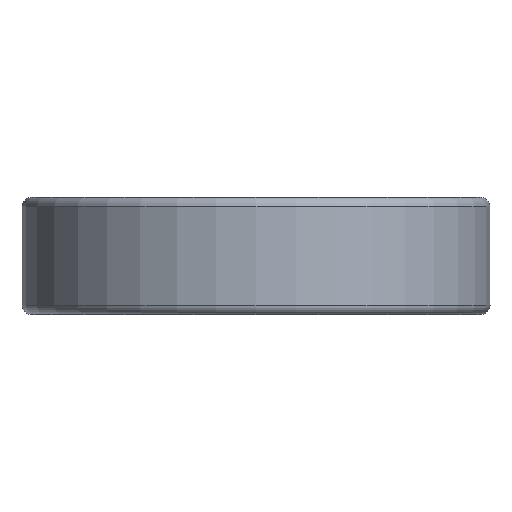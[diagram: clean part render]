
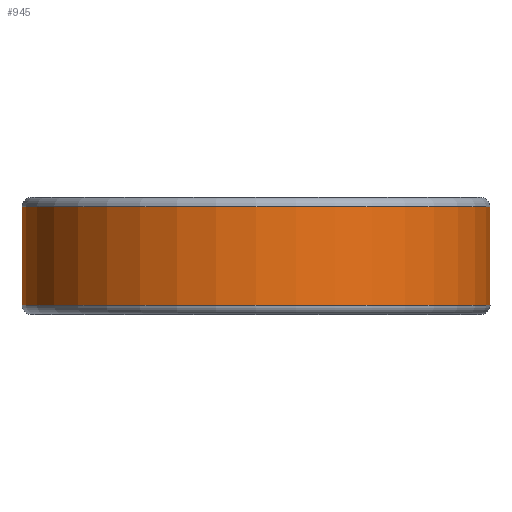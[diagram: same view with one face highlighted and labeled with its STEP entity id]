
A CAD part, left-side view. The second image highlights one B-rep face of the part: STEP entity #945.
In plain terms, the highlighted cylindrical face has radius 30 mm (diameter 60 mm), a partial arc.
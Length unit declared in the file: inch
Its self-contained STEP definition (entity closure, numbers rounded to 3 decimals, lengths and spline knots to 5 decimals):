
#62=DIRECTION('',(0.,0.,-1.));
#63=VECTOR('',#62,0.20273);
#64=CARTESIAN_POINT('',(1.15275,0.25725,0.39664));
#65=LINE('',#64,#63);
#81=DIRECTION('',(0.,0.,1.));
#82=VECTOR('',#81,0.0252);
#83=CARTESIAN_POINT('',(1.15275,0.25725,0.16871));
#84=LINE('',#83,#82);
#85=CARTESIAN_POINT('',(1.15275,0.25725,0.42184));
#86=CARTESIAN_POINT('',(1.14333,0.29944,0.43439));
#87=CARTESIAN_POINT('',(1.12092,0.37816,0.45819));
#88=CARTESIAN_POINT('',(1.08081,0.48003,0.48467));
#89=CARTESIAN_POINT('',(1.03683,0.56823,0.50124));
#90=CARTESIAN_POINT('',(0.9914,0.64376,0.5077));
#91=CARTESIAN_POINT('',(0.9466,0.70762,0.50444));
#92=CARTESIAN_POINT('',(0.9044,0.7605,0.49221));
#93=CARTESIAN_POINT('',(0.86656,0.80309,0.47218));
#94=CARTESIAN_POINT('',(0.83457,0.83608,0.44597));
#95=CARTESIAN_POINT('',(0.80938,0.86035,0.41566));
#96=CARTESIAN_POINT('',(0.79092,0.87725,0.38286));
#97=CARTESIAN_POINT('',(0.77883,0.88796,0.34847));
#98=CARTESIAN_POINT('',(0.77283,0.89316,0.31324));
#99=CARTESIAN_POINT('',(0.7728,0.89319,0.27773));
#100=CARTESIAN_POINT('',(0.77872,0.88805,
0.24249));
#101=CARTESIAN_POINT('',(0.79075,0.87741,
0.20809));
#102=CARTESIAN_POINT('',(0.80912,0.86059,
0.17527));
#103=CARTESIAN_POINT('',(0.83423,0.83642,
0.14492));
#104=CARTESIAN_POINT('',(0.86621,0.80347,
0.11861));
#105=CARTESIAN_POINT('',(0.90404,0.76093,
0.09848));
#106=CARTESIAN_POINT('',(0.94625,0.70809,
0.08617));
#107=CARTESIAN_POINT('',(0.99107,0.64426,
0.08284));
#108=CARTESIAN_POINT('',(1.03658,0.5687,0.08924));
#109=CARTESIAN_POINT('',(1.08065,0.4804,0.10579));
#110=CARTESIAN_POINT('',(1.12085,0.37837,0.1323));
#111=CARTESIAN_POINT('',(1.14331,0.29951,0.15613));
#112=CARTESIAN_POINT('',(1.15275,0.25725,0.16871));
#114=DIRECTION('',(0.,0.,1.));
#115=VECTOR('',#114,0.0252);
#116=CARTESIAN_POINT('',(1.15275,0.25725,0.39664));
#117=LINE('',#116,#115);
#118=CARTESIAN_POINT('',(0.,0.,0.04724));
#119=DIRECTION('',(0.,0.,-1.));
#120=DIRECTION('',(1.,-0.026,0.));
#121=AXIS2_PLACEMENT_3D('',#118,#119,#120);
#123=DIRECTION('',(0.,0.,-1.));
#124=VECTOR('',#123,0.49607);
#125=CARTESIAN_POINT('',(1.18069,0.0313,0.54331));
#126=LINE('',#125,#124);
#127=CARTESIAN_POINT('',(0.,0.,0.54331));
#128=DIRECTION('',(0.,0.,1.));
#129=DIRECTION('',(1.,0.026,0.));
#130=AXIS2_PLACEMENT_3D('',#127,#128,#129);
#132=DIRECTION('',(0.,0.,1.));
#133=VECTOR('',#132,0.49607);
#134=CARTESIAN_POINT('',(1.18069,-0.0313,
0.04724));
#135=LINE('',#134,#133);
#136=CARTESIAN_POINT('',(0.984,-0.65326,0.19371));
#137=CARTESIAN_POINT('',(0.97674,-0.66419,
0.19371));
#138=CARTESIAN_POINT('',(0.9626,-0.68471,
0.19525));
#139=CARTESIAN_POINT('',(0.94272,-0.71176,
0.20171));
#140=CARTESIAN_POINT('',(0.92486,-0.73476,
0.21187));
#141=CARTESIAN_POINT('',(0.90965,-0.75345,
0.22514));
#142=CARTESIAN_POINT('',(0.89756,-0.76777,
0.24077));
#143=CARTESIAN_POINT('',(0.88889,-0.77776,
0.25799));
#144=CARTESIAN_POINT('',(0.88363,-0.78371,
0.27625));
#145=CARTESIAN_POINT('',(0.88185,-0.78571,
0.29526));
#146=CARTESIAN_POINT('',(0.88362,-0.78373,
0.31423));
#147=CARTESIAN_POINT('',(0.88883,-0.77783,
0.33235));
#148=CARTESIAN_POINT('',(0.89738,-0.76798,
0.3495));
#149=CARTESIAN_POINT('',(0.90942,-0.75373,
0.36517));
#150=CARTESIAN_POINT('',(0.92467,-0.735,
0.37856));
#151=CARTESIAN_POINT('',(0.94262,-0.7119,
0.3888));
#152=CARTESIAN_POINT('',(0.96259,-0.68473,
0.3953));
#153=CARTESIAN_POINT('',(0.97674,-0.66419,
0.39684));
#154=CARTESIAN_POINT('',(0.984,-0.65326,0.39684));
#156=CARTESIAN_POINT('',(0.984,-0.65326,0.39684));
#157=CARTESIAN_POINT('',(0.99122,-0.64239,
0.39684));
#158=CARTESIAN_POINT('',(1.0046,-0.62145,
0.39535));
#159=CARTESIAN_POINT('',(1.02177,-0.59273,
0.39006));
#160=CARTESIAN_POINT('',(1.03638,-0.56673,
0.38278));
#161=CARTESIAN_POINT('',(1.04871,-0.54352,
0.374));
#162=CARTESIAN_POINT('',(1.05908,-0.52297,
0.36416));
#163=CARTESIAN_POINT('',(1.06773,-0.50505,
0.3533));
#164=CARTESIAN_POINT('',(1.07479,-0.48981,
0.34154));
#165=CARTESIAN_POINT('',(1.08026,-0.47758,
0.32871));
#166=CARTESIAN_POINT('',(1.08393,-0.46916,
0.31518));
#167=CARTESIAN_POINT('',(1.08564,-0.46516,
0.3015));
#168=CARTESIAN_POINT('',(1.08558,-0.46533,
0.28784));
#169=CARTESIAN_POINT('',(1.08371,-0.46968,
0.27433));
#170=CARTESIAN_POINT('',(1.07993,-0.47832,
0.26101));
#171=CARTESIAN_POINT('',(1.07442,-0.49062,
0.24835));
#172=CARTESIAN_POINT('',(1.06735,-0.50584,
0.23671));
#173=CARTESIAN_POINT('',(1.05872,-0.52371,
0.226));
#174=CARTESIAN_POINT('',(1.04837,-0.54417,
0.21627));
#175=CARTESIAN_POINT('',(1.03608,-0.56728,
0.20762));
#176=CARTESIAN_POINT('',(1.02154,-0.59312,
0.20041));
#177=CARTESIAN_POINT('',(1.00447,-0.62166,
0.19518));
#178=CARTESIAN_POINT('',(0.99117,-0.64246,
0.19371));
#179=CARTESIAN_POINT('',(0.984,-0.65326,0.19371));
#653=CARTESIAN_POINT('',(1.15275,0.25725,0.39664));
#654=CARTESIAN_POINT('',(1.15275,0.25725,0.19391));
#655=VERTEX_POINT('',#653);
#656=VERTEX_POINT('',#654);
#697=CARTESIAN_POINT('',(1.15275,0.25725,0.16871));
#698=VERTEX_POINT('',#697);
#699=CARTESIAN_POINT('',(1.15275,0.25725,0.42184));
#700=VERTEX_POINT('',#699);
#701=CARTESIAN_POINT('',(1.18069,-0.0313,
0.04724));
#702=CARTESIAN_POINT('',(1.18069,0.0313,0.04724));
#703=VERTEX_POINT('',#701);
#704=VERTEX_POINT('',#702);
#705=CARTESIAN_POINT('',(1.18069,0.0313,0.54331));
#706=VERTEX_POINT('',#705);
#707=CARTESIAN_POINT('',(1.18069,-0.0313,
0.54331));
#708=VERTEX_POINT('',#707);
#709=VERTEX_POINT('',#136);
#710=VERTEX_POINT('',#154);
#915=CARTESIAN_POINT('',(0.,0.,0.59055));
#916=DIRECTION('',(0.,0.,-1.));
#917=DIRECTION('',(-1.,0.,0.));
#918=AXIS2_PLACEMENT_3D('',#915,#916,#917);
#919=CYLINDRICAL_SURFACE('',#918,1.1811);
#921=ORIENTED_EDGE('',*,*,#920,.T.);
#923=ORIENTED_EDGE('',*,*,#922,.F.);
#925=ORIENTED_EDGE('',*,*,#924,.T.);
#927=ORIENTED_EDGE('',*,*,#926,.F.);
#928=EDGE_LOOP('',(#921,#923,#925,#927));
#929=FACE_OUTER_BOUND('',#928,.F.);
#931=ORIENTED_EDGE('',*,*,#930,.F.);
#933=ORIENTED_EDGE('',*,*,#932,.F.);
#935=ORIENTED_EDGE('',*,*,#934,.F.);
#936=ORIENTED_EDGE('',*,*,#878,.T.);
#937=EDGE_LOOP('',(#931,#933,#935,#936));
#938=FACE_BOUND('',#937,.F.);
#940=ORIENTED_EDGE('',*,*,#939,.F.);
#942=ORIENTED_EDGE('',*,*,#941,.F.);
#943=EDGE_LOOP('',(#940,#942));
#944=FACE_BOUND('',#943,.F.);
#113=B_SPLINE_CURVE_WITH_KNOTS('',3,(#85,#86,#87,#88,#89,#90,#91,#92,#93,#94,
#95,#96,#97,#98,#99,#100,#101,#102,#103,#104,#105,#106,#107,#108,#109,#110,#111,
#112),.UNSPECIFIED.,.F.,.F.,(4,1,1,1,1,1,1,1,1,1,1,1,1,1,1,1,1,1,1,1,1,1,1,1,1,
4),(0.,0.04,0.08,0.12,0.16,0.2,0.24,0.28,0.32,0.36,0.4,
0.44,0.48,0.52,0.56,0.6,0.64,0.68,0.72,0.76,0.8,0.84,
0.88,0.92,0.96,1.),.UNSPECIFIED.);
#122=CIRCLE('',#121,1.1811);
#131=CIRCLE('',#130,1.1811);
#155=B_SPLINE_CURVE_WITH_KNOTS('',3,(#136,#137,#138,#139,#140,#141,#142,#143,
#144,#145,#146,#147,#148,#149,#150,#151,#152,#153,#154),.UNSPECIFIED.,.F.,.F.,
(4,1,1,1,1,1,1,1,1,1,1,1,1,1,1,1,4),(0.,0.0625,0.125,0.1875,0.25,
0.3125,0.375,0.4375,0.5,0.5625,0.625,0.6875,0.75,0.8125,
0.875,0.9375,1.),.UNSPECIFIED.);
#180=B_SPLINE_CURVE_WITH_KNOTS('',3,(#156,#157,#158,#159,#160,#161,#162,#163,
#164,#165,#166,#167,#168,#169,#170,#171,#172,#173,#174,#175,#176,#177,#178,
#179),.UNSPECIFIED.,.F.,.F.,(4,1,1,1,1,1,1,1,1,1,1,1,1,1,1,1,1,1,1,1,1,4),(0.,
0.04762,0.09524,0.14286,0.19048,
0.2381,0.28571,0.33333,0.38095,
0.42857,0.47619,0.52381,0.57143,
0.61905,0.66667,0.71429,0.7619,
0.80952,0.85714,0.90476,0.95238,1.),
.UNSPECIFIED.);
#878=EDGE_CURVE('',#655,#656,#65,.T.);
#920=EDGE_CURVE('',#703,#704,#122,.T.);
#922=EDGE_CURVE('',#706,#704,#126,.T.);
#924=EDGE_CURVE('',#706,#708,#131,.T.);
#926=EDGE_CURVE('',#703,#708,#135,.T.);
#930=EDGE_CURVE('',#698,#656,#84,.T.);
#932=EDGE_CURVE('',#700,#698,#113,.T.);
#934=EDGE_CURVE('',#655,#700,#117,.T.);
#939=EDGE_CURVE('',#709,#710,#155,.T.);
#941=EDGE_CURVE('',#710,#709,#180,.T.);
#945=ADVANCED_FACE('',(#929,#938,#944),#919,.T.);
